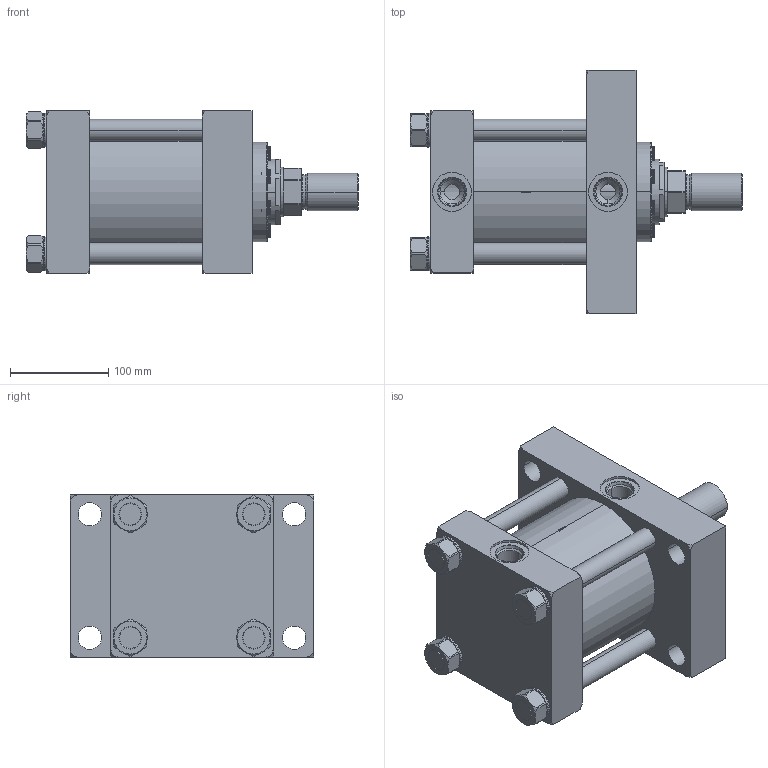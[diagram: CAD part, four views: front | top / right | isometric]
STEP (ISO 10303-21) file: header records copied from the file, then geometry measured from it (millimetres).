
FILE_DESCRIPTION (( 'STEP AP214' ), '1' );
FILE_NAME ('5.00JJ2HHNAT114A2.000.step', '2026-03-26T21:19:05', ( '' ), ( '' ), 'SwSTEP 2.0', 'SolidWorks 2023', '' );
FILE_SCHEMA (( 'AUTOMOTIVE_DESIGN' ));
Length unit declared in the file: inch
Products named in the file (1): 5.00JJ2HHNAT114A2.000
Bounding box: 338.14 x 247.65 x 165.1 mm (x, y, z)
Volume: 4939741.7 mm3; surface area: 615355.5 mm2
Topology: 40 solids, 40 shells, 1838 faces, 4869 edges, 3122 vertices
Faces by surface type: plane 818, cylinder 753, cone 229, bspline 30, torus 8
Entity records: 84675 total; most frequent: CARTESIAN_POINT 15728, ORIENTED_EDGE 9658, DIRECTION 9095, EDGE_CURVE 4829, AXIS2_PLACEMENT_3D 3521, VERTEX_POINT 3122, LINE 2053, VECTOR 2053
